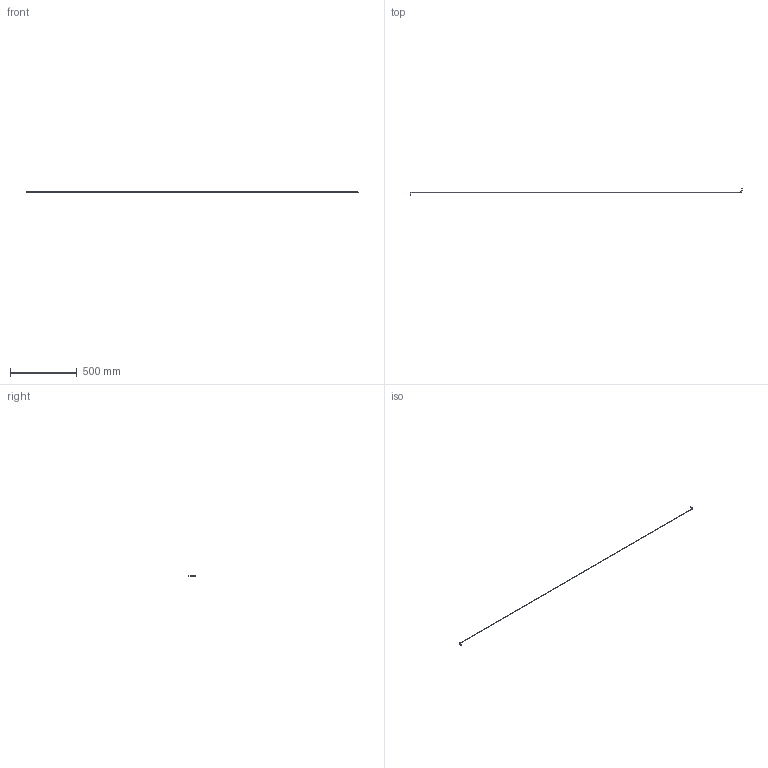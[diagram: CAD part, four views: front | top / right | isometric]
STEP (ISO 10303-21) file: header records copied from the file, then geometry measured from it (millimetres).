
FILE_DESCRIPTION(/* description */ (''),/* implementation_level */ '2;1');
FILE_NAME(/* name */ 'CMS.BTL.00000072.stp',/* time_stamp */ '2023-10-24T15:06:14+02:00',/* author */ (''),/* organization */ (''),/* preprocessor_version */ 'ST-DEVELOPER v19.4',/* originating_system */ 'SIEMENS PLM Software NX2306.5001',/* authorisation */ '');
FILE_SCHEMA (('AP203_CONFIGURATION_CONTROLLED_3D_DESIGN_OF_MECHANICAL_PARTS_AND_ASSEMBLIES_MIM_LF { 1 0 10303 403 2 1 2}'));
Length unit declared in the file: millimetre
Products named in the file (1): CMS.BTL.00000072_objects
Bounding box: 2487.8 x 50 x 3.5 mm (x, y, z)
Volume: 6438.2 mm3; surface area: 51511 mm2
Topology: 1 solids, 1 shells, 12 faces, 28 edges, 18 vertices
Faces by surface type: cylinder 6, torus 4, plane 2
Full cylindrical faces by diameter (mm): 3 x3, 3.5 x3
Entity records: 334 total; most frequent: DIRECTION 50, CARTESIAN_POINT 37, AXIS2_PLACEMENT_3D 25, FACE_BOUND 24, EDGE_LOOP 24, ORIENTED_EDGE 24, ADVANCED_FACE 12, VERTEX_POINT 12
